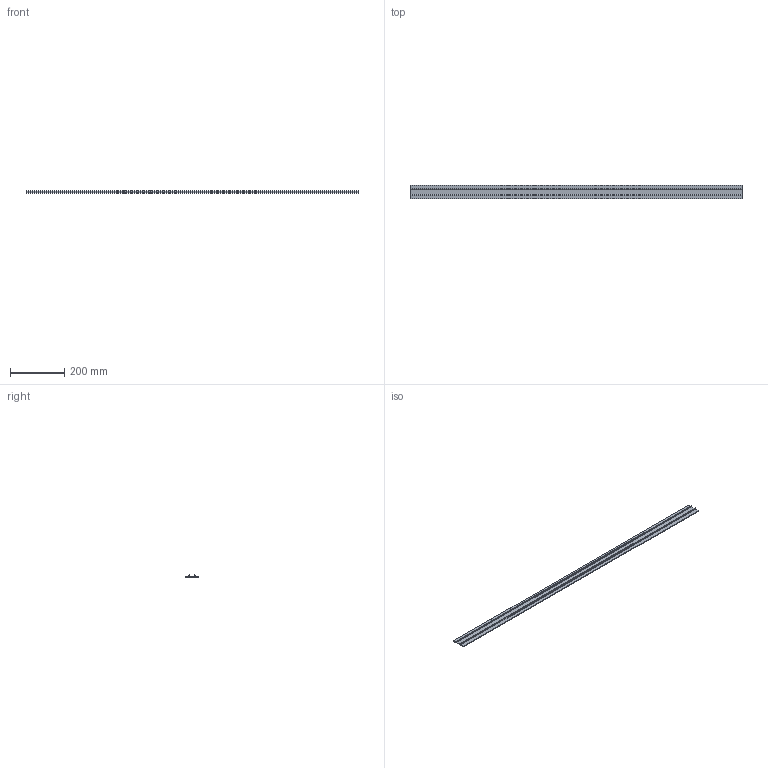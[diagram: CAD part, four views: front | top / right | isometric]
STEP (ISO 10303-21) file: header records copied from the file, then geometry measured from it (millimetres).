
FILE_DESCRIPTION((''),'2;1');
FILE_NAME('GTB13C04','2016-08-23T',('adam.dellomodarme'),(''),'PRO/ENGINEER BY PARAMETRIC TECHNOLOGY CORPORATION, 2012420','PRO/ENGINEER BY PARAMETRIC TECHNOLOGY CORPORATION, 2012420','');
FILE_SCHEMA(('CONFIG_CONTROL_DESIGN'));
Length unit declared in the file: inch
Products named in the file (1): GTB13C04
Bounding box: 1219.2 x 50 x 7.9 mm (x, y, z)
Volume: 205663.4 mm3; surface area: 154194.8 mm2
Topology: 1 solids, 1 shells, 22 faces, 60 edges, 40 vertices
Faces by surface type: plane 14, cylinder 8
Entity records: 744 total; most frequent: CARTESIAN_POINT 138, ORIENTED_EDGE 120, DIRECTION 112, EDGE_CURVE 60, VECTOR 44, LINE 44, VERTEX_POINT 40, AXIS2_PLACEMENT_3D 34
